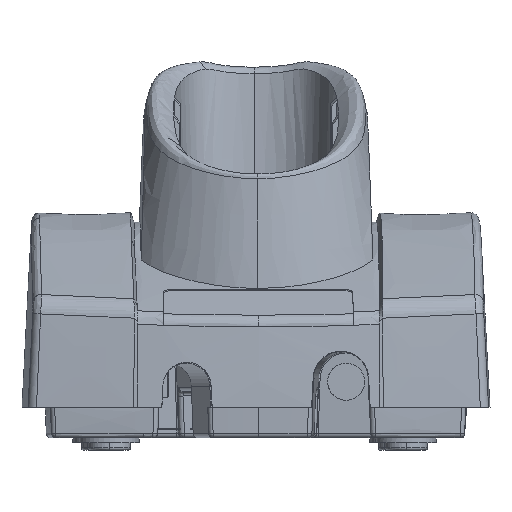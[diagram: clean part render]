
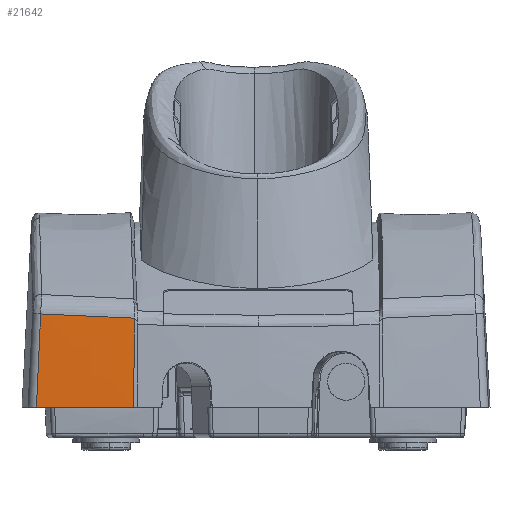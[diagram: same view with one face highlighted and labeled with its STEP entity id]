
A CAD part, front view. The second image highlights one B-rep face of the part: STEP entity #21642.
In plain terms, the highlighted free-form (B-spline) face has degree [3, 3] with [17, 4] control points.
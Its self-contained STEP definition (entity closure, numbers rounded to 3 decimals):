
#1710=CARTESIAN_POINT('',(-26.865,24.1,
0.));
#1711=CARTESIAN_POINT('',(-29.209,24.258,
0.));
#1712=CARTESIAN_POINT('',(-33.888,24.601,
0.));
#1713=CARTESIAN_POINT('',(-40.881,25.209,
0.));
#1714=CARTESIAN_POINT('',(-45.528,25.641,
0.));
#1715=CARTESIAN_POINT('',(-47.843,25.896,
0.));
#3919=CARTESIAN_POINT('',(-26.798,25.113,19.206));
#4013=CARTESIAN_POINT('',(-46.925,26.862,20.115));
#4028=CARTESIAN_POINT('',(-46.925,26.862,20.115));
#4029=CARTESIAN_POINT('',(-47.231,26.54,13.41));
#4030=CARTESIAN_POINT('',(-47.537,26.218,6.705));
#4031=CARTESIAN_POINT('',(-47.843,25.896,
0.));
#4033=CARTESIAN_POINT('',(-26.798,25.113,19.206));
#4034=CARTESIAN_POINT('',(-33.528,25.566,19.439));
#4035=CARTESIAN_POINT('',(-40.239,26.161,19.75));
#4036=CARTESIAN_POINT('',(-46.925,26.862,20.115));
#4038=CARTESIAN_POINT('',(-26.797,25.104,19.039));
#4039=CARTESIAN_POINT('',(-26.796,25.105,19.058));
#4040=CARTESIAN_POINT('',(-26.795,25.107,19.095));
#4041=CARTESIAN_POINT('',(-26.796,25.11,19.15));
#4042=CARTESIAN_POINT('',(-26.797,25.112,19.187));
#4043=CARTESIAN_POINT('',(-26.798,25.113,19.206));
#14555=CARTESIAN_POINT('',(-26.797,25.104,
19.039));
#14556=CARTESIAN_POINT('',(-26.83,25.033,
17.655));
#14557=CARTESIAN_POINT('',(-26.827,24.879,
14.759));
#14558=CARTESIAN_POINT('',(-26.83,24.633,
10.111));
#14559=CARTESIAN_POINT('',(-26.857,24.363,
4.985));
#14560=CARTESIAN_POINT('',(-26.857,24.188,
1.668));
#14561=CARTESIAN_POINT('',(-26.865,24.1,
0.));
#15734=VERTEX_POINT('',#3919);
#15735=VERTEX_POINT('',#4038);
#15736=VERTEX_POINT('',#14561);
#15750=VERTEX_POINT('',#1715);
#15843=VERTEX_POINT('',#4013);
#21564=CARTESIAN_POINT('',(-46.925,26.863,
20.122));
#21565=CARTESIAN_POINT('',(-47.241,26.542,
13.414));
#21566=CARTESIAN_POINT('',(-47.558,26.22,
6.707));
#21567=CARTESIAN_POINT('',(-47.875,25.899,
0.));
#21568=CARTESIAN_POINT('',(-46.898,26.877,
20.104));
#21569=CARTESIAN_POINT('',(-47.22,26.551,
13.402));
#21570=CARTESIAN_POINT('',(-47.542,26.225,
6.701));
#21571=CARTESIAN_POINT('',(-47.864,25.899,
0.));
#21572=CARTESIAN_POINT('',(-46.895,26.858,
20.143));
#21573=CARTESIAN_POINT('',(-47.212,26.537,
13.428));
#21574=CARTESIAN_POINT('',(-47.528,26.217,
6.714));
#21575=CARTESIAN_POINT('',(-47.845,25.896,
0.));
#21576=CARTESIAN_POINT('',(-46.847,26.863,
20.124));
#21577=CARTESIAN_POINT('',(-47.166,26.54,
13.416));
#21578=CARTESIAN_POINT('',(-47.485,26.216,
6.708));
#21579=CARTESIAN_POINT('',(-47.804,25.892,
0.));
#21580=CARTESIAN_POINT('',(-46.798,26.842,
20.113));
#21581=CARTESIAN_POINT('',(-47.11,26.523,
13.408));
#21582=CARTESIAN_POINT('',(-47.422,26.204,
6.704));
#21583=CARTESIAN_POINT('',(-47.734,25.885,
0.));
#21584=CARTESIAN_POINT('',(-46.65,26.838,
20.112));
#21585=CARTESIAN_POINT('',(-46.965,26.516,
13.408));
#21586=CARTESIAN_POINT('',(-47.279,26.193,
6.704));
#21587=CARTESIAN_POINT('',(-47.593,25.87,
0.));
#21588=CARTESIAN_POINT('',(-46.391,26.803,
20.095));
#21589=CARTESIAN_POINT('',(-46.698,26.483,
13.397));
#21590=CARTESIAN_POINT('',(-47.005,26.162,
6.698));
#21591=CARTESIAN_POINT('',(-47.313,25.841,
0.));
#21592=CARTESIAN_POINT('',(-45.6,26.729,
20.061));
#21593=CARTESIAN_POINT('',(-45.899,26.405,
13.374));
#21594=CARTESIAN_POINT('',(-46.198,26.081,
6.687));
#21595=CARTESIAN_POINT('',(-46.496,25.758,
0.));
#21596=CARTESIAN_POINT('',(-44.345,26.599,
20.008));
#21597=CARTESIAN_POINT('',(-44.625,26.275,
13.338));
#21598=CARTESIAN_POINT('',(-44.905,25.95,
6.669));
#21599=CARTESIAN_POINT('',(-45.184,25.626,
0.));
#21600=CARTESIAN_POINT('',(-42.144,26.378,
19.896));
#21601=CARTESIAN_POINT('',(-42.39,26.052,
13.264));
#21602=CARTESIAN_POINT('',(-42.635,25.727,
6.632));
#21603=CARTESIAN_POINT('',(-42.881,25.401,
0.));
#21604=CARTESIAN_POINT('',(-39.382,26.118,
19.78));
#21605=CARTESIAN_POINT('',(-39.588,25.79,
13.187));
#21606=CARTESIAN_POINT('',(-39.794,25.461,
6.593));
#21607=CARTESIAN_POINT('',(-40.,25.132,
0.));
#21608=CARTESIAN_POINT('',(-36.069,25.824,
19.641));
#21609=CARTESIAN_POINT('',(-36.226,25.493,
13.094));
#21610=CARTESIAN_POINT('',(-36.384,25.162,
6.547));
#21611=CARTESIAN_POINT('',(-36.541,24.831,
0.));
#21612=CARTESIAN_POINT('',(-32.867,25.56,
19.518));
#21613=CARTESIAN_POINT('',(-32.977,25.227,
13.012));
#21614=CARTESIAN_POINT('',(-33.088,24.893,
6.506));
#21615=CARTESIAN_POINT('',(-33.199,24.559,
0.));
#21616=CARTESIAN_POINT('',(-29.776,25.325,
19.408));
#21617=CARTESIAN_POINT('',(-29.842,24.988,
12.939));
#21618=CARTESIAN_POINT('',(-29.908,24.652,
6.469));
#21619=CARTESIAN_POINT('',(-29.974,24.315,
0.));
#21620=CARTESIAN_POINT('',(-27.79,25.185,
19.343));
#21621=CARTESIAN_POINT('',(-27.827,24.847,
12.895));
#21622=CARTESIAN_POINT('',(-27.864,24.508,
6.448));
#21623=CARTESIAN_POINT('',(-27.901,24.17,
0.));
#21624=CARTESIAN_POINT('',(-26.796,25.119,
19.312));
#21625=CARTESIAN_POINT('',(-26.818,24.779,
12.875));
#21626=CARTESIAN_POINT('',(-26.841,24.439,
6.437));
#21627=CARTESIAN_POINT('',(-26.864,24.1,
0.));
#21628=CARTESIAN_POINT('',(-26.795,25.119,
19.312));
#21629=CARTESIAN_POINT('',(-26.818,24.779,
12.875));
#21630=CARTESIAN_POINT('',(-26.84,24.439,
6.437));
#21631=CARTESIAN_POINT('',(-26.863,24.1,
0.));
#21632=B_SPLINE_SURFACE_WITH_KNOTS('',3,3,((#21564,#21565,#21566,#21567),
(#21568,#21569,#21570,#21571),(#21572,#21573,#21574,#21575),(#21576,#21577,
#21578,#21579),(#21580,#21581,#21582,#21583),(#21584,#21585,#21586,#21587),(
#21588,#21589,#21590,#21591),(#21592,#21593,#21594,#21595),(#21596,#21597,
#21598,#21599),(#21600,#21601,#21602,#21603),(#21604,#21605,#21606,#21607),(
#21608,#21609,#21610,#21611),(#21612,#21613,#21614,#21615),(#21616,#21617,
#21618,#21619),(#21620,#21621,#21622,#21623),(#21624,#21625,#21626,#21627),(
#21628,#21629,#21630,#21631)),.UNSPECIFIED.,.F.,.F.,.F.,(4,1,1,1,1,1,1,1,1,1,1,
1,1,1,4),(4,4),(0.,0.001,0.003,0.006,
0.011,0.023,0.046,0.128,
0.211,0.375,0.54,0.704,
0.852,1.,1.),(0.019,0.981),
.UNSPECIFIED.);
#21633=ORIENTED_EDGE('',*,*,#19137,.T.);
#21634=ORIENTED_EDGE('',*,*,#21558,.F.);
#21635=ORIENTED_EDGE('',*,*,#21383,.F.);
#21637=ORIENTED_EDGE('',*,*,#21636,.F.);
#21639=ORIENTED_EDGE('',*,*,#21638,.T.);
#21640=EDGE_LOOP('',(#21633,#21634,#21635,#21637,#21639));
#21641=FACE_OUTER_BOUND('',#21640,.F.);
#21642=ADVANCED_FACE('',(#21641),#21632,.F.);
#1716=B_SPLINE_CURVE_WITH_KNOTS('',3,(#1710,#1711,#1712,#1713,#1714,#1715),
.UNSPECIFIED.,.F.,.F.,(4,1,1,4),(0.,0.333,0.667,1.),
.UNSPECIFIED.);
#4032=B_SPLINE_CURVE_WITH_KNOTS('',3,(#4028,#4029,#4030,#4031),.UNSPECIFIED.,
.F.,.F.,(4,4),(0.,1.),.UNSPECIFIED.);
#4037=B_SPLINE_CURVE_WITH_KNOTS('',3,(#4033,#4034,#4035,#4036),.UNSPECIFIED.,
.F.,.F.,(4,4),(0.,1.),.UNSPECIFIED.);
#4044=B_SPLINE_CURVE_WITH_KNOTS('',3,(#4038,#4039,#4040,#4041,#4042,#4043),
.UNSPECIFIED.,.F.,.F.,(4,1,1,4),(0.,0.333,0.667,1.),
.UNSPECIFIED.);
#14562=B_SPLINE_CURVE_WITH_KNOTS('',3,(#14555,#14556,#14557,#14558,#14559,
#14560,#14561),.UNSPECIFIED.,.F.,.F.,(4,1,1,1,4),(0.,0.25,0.5,0.75,
1.),.UNSPECIFIED.);
#19137=EDGE_CURVE('',#15736,#15750,#1716,.T.);
#21383=EDGE_CURVE('',#15734,#15843,#4037,.T.);
#21558=EDGE_CURVE('',#15843,#15750,#4032,.T.);
#21636=EDGE_CURVE('',#15735,#15734,#4044,.T.);
#21638=EDGE_CURVE('',#15735,#15736,#14562,.T.);
